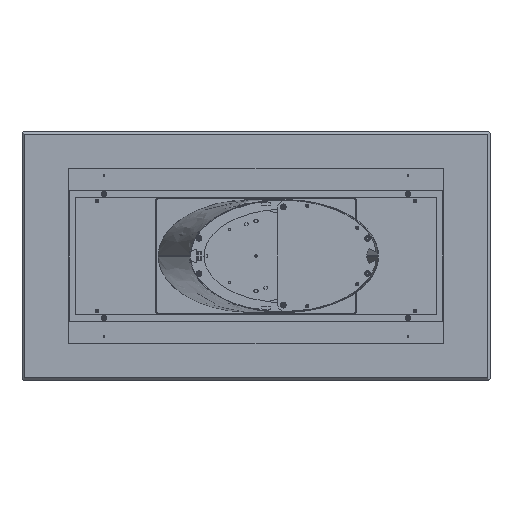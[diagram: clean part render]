
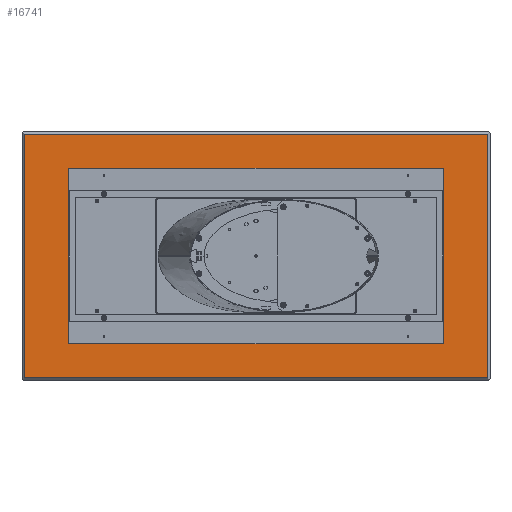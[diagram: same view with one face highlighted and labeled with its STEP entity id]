
A CAD part, front view. The second image highlights one B-rep face of the part: STEP entity #16741.
In plain terms, the highlighted planar face has unit normal (0, -1, 0).
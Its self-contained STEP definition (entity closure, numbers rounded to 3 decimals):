
#173 = CARTESIAN_POINT ( 'NONE',  ( -680., 0., 235. ) ) ;
#181 = DIRECTION ( 'NONE',  ( 0., -1., 0. ) ) ;
#1037 = LINE ( 'NONE', #24814, #5473 ) ;
#1137 = VERTEX_POINT ( 'NONE', #14695 ) ;
#1429 = ORIENTED_EDGE ( 'NONE', *, *, #25079, .T. ) ;
#1685 = DIRECTION ( 'NONE',  ( 0., 0., -1. ) ) ;
#2084 = DIRECTION ( 'NONE',  ( 0., 0., 1. ) ) ;
#2682 = EDGE_LOOP ( 'NONE', ( #16547, #30014 ) ) ;
#2764 = DIRECTION ( 'NONE',  ( 0., -1., 0. ) ) ;
#2846 = DIRECTION ( 'NONE',  ( 0., 0., -1. ) ) ;
#2852 = DIRECTION ( 'NONE',  ( 0., 0., -1. ) ) ;
#2943 = LINE ( 'NONE', #12274, #15566 ) ;
#2945 = AXIS2_PLACEMENT_3D ( 'NONE', #5502, #3009, #21824 ) ;
#2978 = DIRECTION ( 'NONE',  ( 0., 0., 1. ) ) ;
#3009 = DIRECTION ( 'NONE',  ( 0., -1., 0. ) ) ;
#3052 = EDGE_CURVE ( 'NONE', #17787, #29043, #2943, .T. ) ;
#4165 = VERTEX_POINT ( 'NONE', #10626 ) ;
#4388 = AXIS2_PLACEMENT_3D ( 'NONE', #16907, #2764, #14885 ) ;
#4880 = AXIS2_PLACEMENT_3D ( 'NONE', #18631, #20966, #1685 ) ;
#4898 = CARTESIAN_POINT ( 'NONE',  ( -680., 0., -232.5 ) ) ;
#5473 = VECTOR ( 'NONE', #10375, 1000. ) ;
#5502 = CARTESIAN_POINT ( 'NONE',  ( -680., 0., -235. ) ) ;
#6473 = VECTOR ( 'NONE', #2978, 1000. ) ;
#6750 = VERTEX_POINT ( 'NONE', #21241 ) ;
#6992 = CARTESIAN_POINT ( 'NONE',  ( 0., 0., -520. ) ) ;
#7359 = CIRCLE ( 'NONE', #4880, 2.5 ) ;
#7959 = LINE ( 'NONE', #28644, #6473 ) ;
#8552 = VERTEX_POINT ( 'NONE', #11569 ) ;
#8597 = VERTEX_POINT ( 'NONE', #4898 ) ;
#9259 = EDGE_LOOP ( 'NONE', ( #25202, #18141 ) ) ;
#9330 = DIRECTION ( 'NONE',  ( 0., 0., -1. ) ) ;
#9632 = EDGE_CURVE ( 'NONE', #29043, #29973, #16631, .T. ) ;
#10082 = ORIENTED_EDGE ( 'NONE', *, *, #28761, .T. ) ;
#10164 = ORIENTED_EDGE ( 'NONE', *, *, #14145, .F. ) ;
#10375 = DIRECTION ( 'NONE',  ( -1., 0., 0. ) ) ;
#10439 = EDGE_CURVE ( 'NONE', #4165, #10903, #7359, .T. ) ;
#10626 = CARTESIAN_POINT ( 'NONE',  ( 680., 0., 237.5 ) ) ;
#10903 = VERTEX_POINT ( 'NONE', #25429 ) ;
#11569 = CARTESIAN_POINT ( 'NONE',  ( 990., 0., 520. ) ) ;
#11813 = EDGE_LOOP ( 'NONE', ( #29264, #22137, #1429, #10082 ) ) ;
#11929 = EDGE_CURVE ( 'NONE', #6750, #1137, #30635, .T. ) ;
#12000 = DIRECTION ( 'NONE',  ( 0., 0., -1. ) ) ;
#12274 = CARTESIAN_POINT ( 'NONE',  ( -990., 0., 0. ) ) ;
#12337 = DIRECTION ( 'NONE',  ( 0., -1., 0. ) ) ;
#13315 = AXIS2_PLACEMENT_3D ( 'NONE', #29407, #12337, #2852 ) ;
#13606 = CARTESIAN_POINT ( 'NONE',  ( 0., 0., 0. ) ) ;
#13992 = CARTESIAN_POINT ( 'NONE',  ( -990., 0., 520. ) ) ;
#14004 = EDGE_CURVE ( 'NONE', #8597, #19796, #19291, .T. ) ;
#14145 = EDGE_CURVE ( 'NONE', #10903, #4165, #26725, .T. ) ;
#14251 = CARTESIAN_POINT ( 'NONE',  ( -680., 0., 232.5 ) ) ;
#14346 = CIRCLE ( 'NONE', #2945, 2.5 ) ;
#14601 = DIRECTION ( 'NONE',  ( 0., -1., 0. ) ) ;
#14663 = DIRECTION ( 'NONE',  ( 0., -1., 0. ) ) ;
#14695 = CARTESIAN_POINT ( 'NONE',  ( 680., 0., -237.5 ) ) ;
#14879 = CIRCLE ( 'NONE', #19341, 2.5 ) ;
#14885 = DIRECTION ( 'NONE',  ( 0., 0., -1. ) ) ;
#14966 = CARTESIAN_POINT ( 'NONE',  ( 680., 0., -235. ) ) ;
#15566 = VECTOR ( 'NONE', #21761, 1000. ) ;
#15577 = CARTESIAN_POINT ( 'NONE',  ( 990., 0., -520. ) ) ;
#16043 = DIRECTION ( 'NONE',  ( 0., -1., 0. ) ) ;
#16052 = CARTESIAN_POINT ( 'NONE',  ( -680., 0., 235. ) ) ;
#16547 = ORIENTED_EDGE ( 'NONE', *, *, #24048, .F. ) ;
#16553 = FACE_OUTER_BOUND ( 'NONE', #11813, .T. ) ;
#16631 = LINE ( 'NONE', #6992, #26682 ) ;
#16741 = ADVANCED_FACE ( 'NONE', ( #21062, #30078, #25720, #25871, #16553 ), #18725, .F. ) ;
#16907 = CARTESIAN_POINT ( 'NONE',  ( -680., 0., -235. ) ) ;
#16961 = ORIENTED_EDGE ( 'NONE', *, *, #11929, .F. ) ;
#17787 = VERTEX_POINT ( 'NONE', #13992 ) ;
#17903 = ORIENTED_EDGE ( 'NONE', *, *, #10439, .F. ) ;
#18141 = ORIENTED_EDGE ( 'NONE', *, *, #24329, .F. ) ;
#18631 = CARTESIAN_POINT ( 'NONE',  ( 680., 0., 235. ) ) ;
#18725 = PLANE ( 'NONE',  #25039 ) ;
#18900 = AXIS2_PLACEMENT_3D ( 'NONE', #14966, #14663, #2846 ) ;
#19109 = CARTESIAN_POINT ( 'NONE',  ( 680., 0., -235. ) ) ;
#19291 = CIRCLE ( 'NONE', #4388, 2.5 ) ;
#19341 = AXIS2_PLACEMENT_3D ( 'NONE', #173, #16043, #25980 ) ;
#19496 = EDGE_LOOP ( 'NONE', ( #10164, #17903 ) ) ;
#19796 = VERTEX_POINT ( 'NONE', #27074 ) ;
#19904 = CIRCLE ( 'NONE', #18900, 2.5 ) ;
#20316 = EDGE_LOOP ( 'NONE', ( #27471, #16961 ) ) ;
#20775 = CARTESIAN_POINT ( 'NONE',  ( -990., 0., -520. ) ) ;
#20966 = DIRECTION ( 'NONE',  ( 0., -1., 0. ) ) ;
#21062 = FACE_BOUND ( 'NONE', #20316, .T. ) ;
#21241 = CARTESIAN_POINT ( 'NONE',  ( 680., 0., -232.5 ) ) ;
#21354 = AXIS2_PLACEMENT_3D ( 'NONE', #16052, #181, #12000 ) ;
#21634 = CARTESIAN_POINT ( 'NONE',  ( -680., 0., 237.5 ) ) ;
#21761 = DIRECTION ( 'NONE',  ( 0., 0., -1. ) ) ;
#21824 = DIRECTION ( 'NONE',  ( 0., 0., -1. ) ) ;
#22137 = ORIENTED_EDGE ( 'NONE', *, *, #9632, .T. ) ;
#22702 = AXIS2_PLACEMENT_3D ( 'NONE', #19109, #14601, #9330 ) ;
#23622 = DIRECTION ( 'NONE',  ( 1., 0., 0. ) ) ;
#24048 = EDGE_CURVE ( 'NONE', #19796, #8597, #14346, .T. ) ;
#24329 = EDGE_CURVE ( 'NONE', #24493, #24782, #14879, .T. ) ;
#24493 = VERTEX_POINT ( 'NONE', #21634 ) ;
#24782 = VERTEX_POINT ( 'NONE', #14251 ) ;
#24814 = CARTESIAN_POINT ( 'NONE',  ( 0., 0., 520. ) ) ;
#24896 = EDGE_CURVE ( 'NONE', #24782, #24493, #25314, .T. ) ;
#25039 = AXIS2_PLACEMENT_3D ( 'NONE', #13606, #27901, #2084 ) ;
#25079 = EDGE_CURVE ( 'NONE', #29973, #8552, #7959, .T. ) ;
#25202 = ORIENTED_EDGE ( 'NONE', *, *, #24896, .F. ) ;
#25314 = CIRCLE ( 'NONE', #21354, 2.5 ) ;
#25429 = CARTESIAN_POINT ( 'NONE',  ( 680., 0., 232.5 ) ) ;
#25720 = FACE_BOUND ( 'NONE', #9259, .T. ) ;
#25871 = FACE_BOUND ( 'NONE', #19496, .T. ) ;
#25980 = DIRECTION ( 'NONE',  ( 0., 0., -1. ) ) ;
#26682 = VECTOR ( 'NONE', #23622, 1000. ) ;
#26725 = CIRCLE ( 'NONE', #13315, 2.5 ) ;
#27074 = CARTESIAN_POINT ( 'NONE',  ( -680., 0., -237.5 ) ) ;
#27471 = ORIENTED_EDGE ( 'NONE', *, *, #29814, .F. ) ;
#27901 = DIRECTION ( 'NONE',  ( 0., 1., 0. ) ) ;
#28644 = CARTESIAN_POINT ( 'NONE',  ( 990., 0., 0. ) ) ;
#28761 = EDGE_CURVE ( 'NONE', #8552, #17787, #1037, .T. ) ;
#29043 = VERTEX_POINT ( 'NONE', #20775 ) ;
#29264 = ORIENTED_EDGE ( 'NONE', *, *, #3052, .T. ) ;
#29407 = CARTESIAN_POINT ( 'NONE',  ( 680., 0., 235. ) ) ;
#29814 = EDGE_CURVE ( 'NONE', #1137, #6750, #19904, .T. ) ;
#29973 = VERTEX_POINT ( 'NONE', #15577 ) ;
#30014 = ORIENTED_EDGE ( 'NONE', *, *, #14004, .F. ) ;
#30078 = FACE_BOUND ( 'NONE', #2682, .T. ) ;
#30635 = CIRCLE ( 'NONE', #22702, 2.5 ) ;
